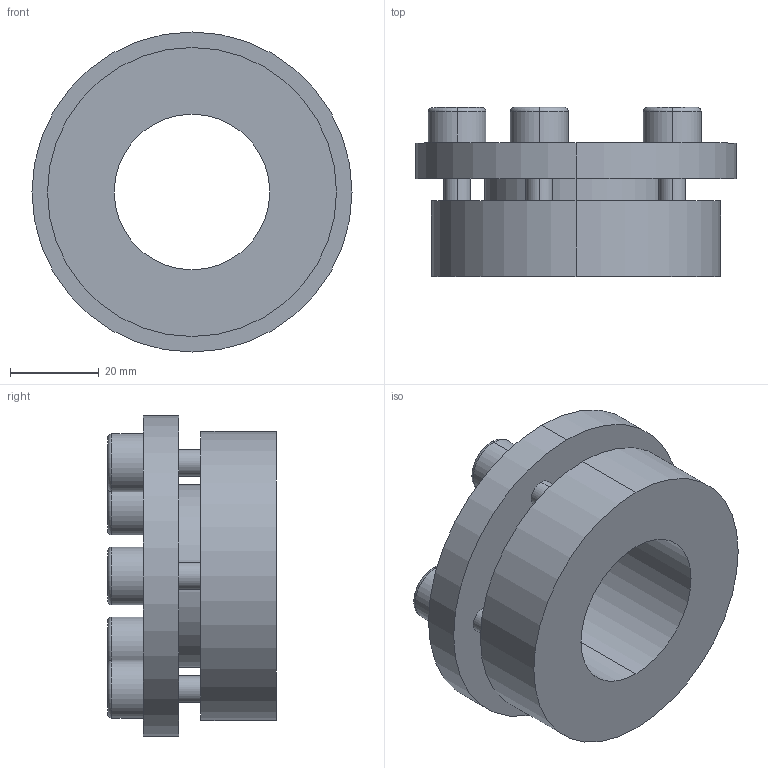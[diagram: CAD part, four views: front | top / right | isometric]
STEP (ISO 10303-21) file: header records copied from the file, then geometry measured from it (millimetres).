
FILE_DESCRIPTION (( 'STEP AP203' ), '1' );
FILE_NAME ('PL-H4 35-65.STEP', '2021-10-23T01:20:03', ( '' ), ( '' ), 'SwSTEP 2.0', 'SolidWorks 2018', '' );
FILE_SCHEMA (( 'CONFIG_CONTROL_DESIGN' ));
Length unit declared in the file: millimetre
Products named in the file (1): PL-H4 35-65
Bounding box: 72 x 38 x 72 mm (x, y, z)
Volume: 72071.4 mm3; surface area: 21586.6 mm2
Topology: 1 solids, 1 shells, 82 faces, 194 edges, 126 vertices
Faces by surface type: plane 44, cylinder 28, torus 10
Entity records: 2475 total; most frequent: DIRECTION 436, CARTESIAN_POINT 403, ORIENTED_EDGE 388, EDGE_CURVE 194, AXIS2_PLACEMENT_3D 159, VERTEX_POINT 126, VECTOR 118, LINE 118
